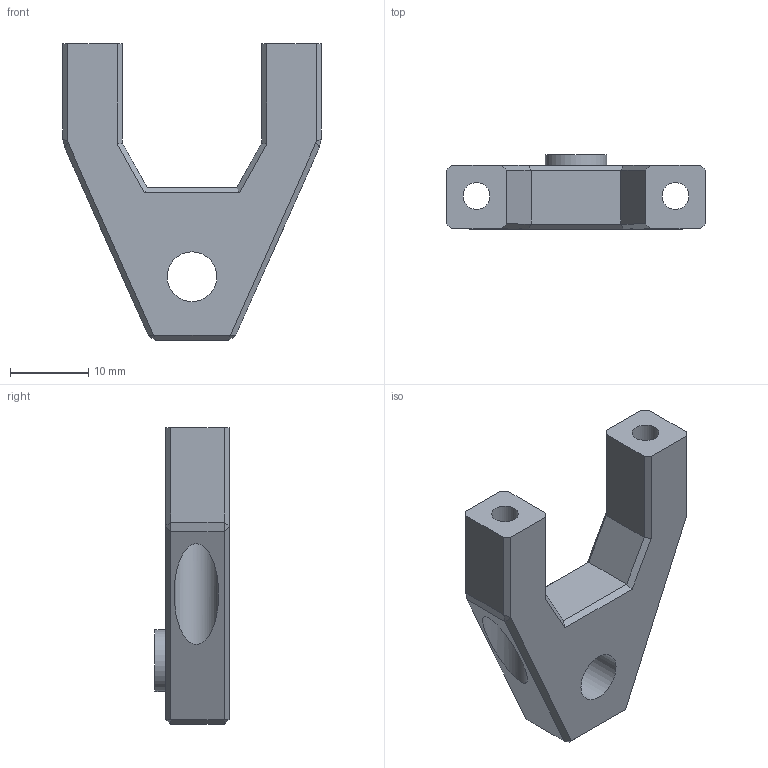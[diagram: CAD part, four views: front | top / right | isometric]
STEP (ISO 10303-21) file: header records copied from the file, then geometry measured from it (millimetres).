
FILE_DESCRIPTION(/* description */ ('STEP AP242 Edition 2','CAx-IF Rec.Pracs.---Representation and Presentation of Product Manufacturing Information (PMI)---4.0---2014-10-13','CAx-IF Rec.Pracs.---3D Tessellated Geometry---0.4---2014-09-14','2;1','CAx-IF Rec.Pracs.---User Defined Attributes---1.5---2016-08-15'),/* implementation_level */ '2;1');
FILE_NAME(/* name */ 'Main - Other Wheel Holder',/* time_stamp */ '2026-09-13T15:50:02Z',/* author */ (''),/* organization */ (''),/* preprocessor_version */ 'ST-DEVELOPER v20',/* originating_system */ 'ONSHAPE BY PTC INC, 1.220',/* authorisation */ ' ');
FILE_SCHEMA (('AP242_MANAGED_MODEL_BASED_3D_ENGINEERING_MIM_LF { 1 0 10303 442 3 1 4 }'));
Length unit declared in the file: metre
Products named in the file (1): Other Wheel Holder
Bounding box: 33.02 x 9.5 x 37.91 mm (x, y, z)
Volume: 4082.2 mm3; surface area: 3246.1 mm2
Topology: 1 solids, 1 shells, 55 faces, 120 edges, 70 vertices
Faces by surface type: plane 49, cylinder 6
Full cylindrical faces by diameter (mm): 3.429 x2, 5.715 x2, 6.35 x1, 7.874 x1
Entity records: 1432 total; most frequent: DIRECTION 236, CARTESIAN_POINT 236, ORIENTED_EDGE 224, EDGE_CURVE 112, LINE 100, VECTOR 100, EDGE_LOOP 70, FACE_BOUND 70
